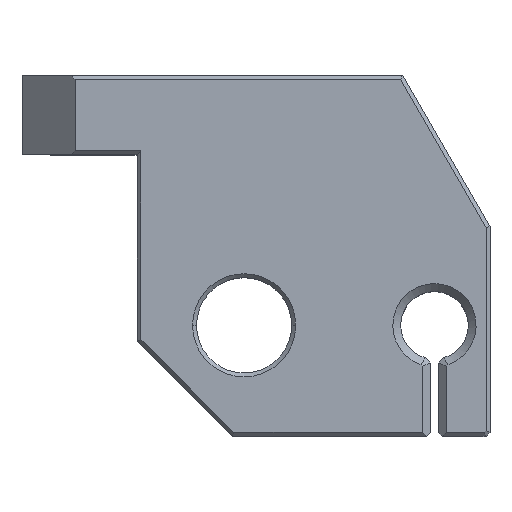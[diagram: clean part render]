
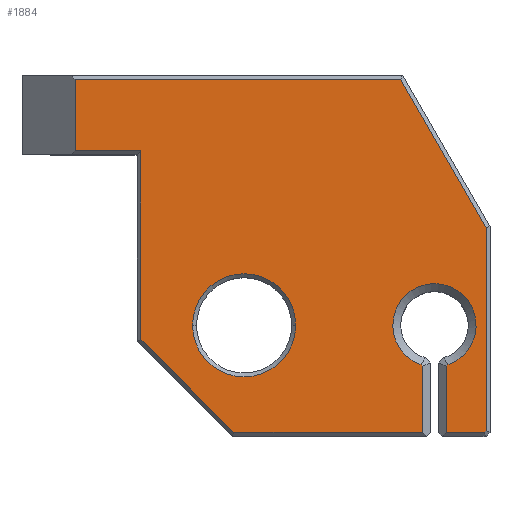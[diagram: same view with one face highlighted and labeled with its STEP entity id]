
A CAD part, top view. The second image highlights one B-rep face of the part: STEP entity #1884.
In plain terms, the highlighted planar face has unit normal (0, 0, 1).
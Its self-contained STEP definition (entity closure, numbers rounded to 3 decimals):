
#294=CARTESIAN_POINT('Vertex',(22.304,-36.469,10.)) ;
#297=CARTESIAN_POINT('Line Origine',(8.586,-22.75,10.)) ;
#301=CARTESIAN_POINT('Vertex',(22.5,-36.664,10.)) ;
#332=CARTESIAN_POINT('Vertex',(25.696,-36.469,10.)) ;
#335=CARTESIAN_POINT('Axis2P3D Location',(24.,-31.5,10.)) ;
#362=CARTESIAN_POINT('Vertex',(25.5,-36.664,10.)) ;
#365=CARTESIAN_POINT('Line Origine',(24.513,-37.651,10.)) ;
#1378=CARTESIAN_POINT('Vertex',(-6.5,-31.5,10.)) ;
#1381=CARTESIAN_POINT('Axis2P3D Location',(0.,-31.5,10.)) ;
#1385=CARTESIAN_POINT('Vertex',(6.5,-31.5,10.)) ;
#1405=CARTESIAN_POINT('Axis2P3D Location',(0.,-31.5,10.)) ;
#1504=CARTESIAN_POINT('Line Origine',(22.5,-22.75,10.)) ;
#1508=CARTESIAN_POINT('Vertex',(22.5,-45.,10.)) ;
#1551=CARTESIAN_POINT('Vertex',(-1.293,-45.,10.)) ;
#1554=CARTESIAN_POINT('Line Origine',(4.843,-45.,10.)) ;
#1574=CARTESIAN_POINT('Vertex',(-13.,-33.293,10.)) ;
#1577=CARTESIAN_POINT('Line Origine',(-11.735,-34.558,10.)) ;
#1597=CARTESIAN_POINT('Vertex',(-13.,-9.5,10.)) ;
#1600=CARTESIAN_POINT('Line Origine',(-13.,-22.75,10.)) ;
#1617=CARTESIAN_POINT('Line Origine',(4.843,-9.5,10.)) ;
#1621=CARTESIAN_POINT('Vertex',(-21.314,-9.5,10.)) ;
#1783=CARTESIAN_POINT('Vertex',(25.5,-45.,10.)) ;
#1786=CARTESIAN_POINT('Line Origine',(25.5,-22.75,10.)) ;
#1804=CARTESIAN_POINT('Line Origine',(-21.314,-5.,10.)) ;
#1808=CARTESIAN_POINT('Vertex',(-21.314,-0.5,10.)) ;
#1825=CARTESIAN_POINT('Axis2P3D Location',(20.,0.,10.)) ;
#1830=CARTESIAN_POINT('Line Origine',(27.896,-45.,10.)) ;
#1834=CARTESIAN_POINT('Vertex',(30.293,-45.,10.)) ;
#1837=CARTESIAN_POINT('Line Origine',(30.396,-44.896,10.)) ;
#1841=CARTESIAN_POINT('Vertex',(30.5,-44.793,10.)) ;
#1844=CARTESIAN_POINT('Line Origine',(30.5,-31.99,10.)) ;
#1848=CARTESIAN_POINT('Vertex',(30.5,-19.187,10.)) ;
#1851=CARTESIAN_POINT('Line Origine',(25.106,-9.843,10.)) ;
#1855=CARTESIAN_POINT('Vertex',(19.711,-0.5,10.)) ;
#1858=CARTESIAN_POINT('Line Origine',(-0.801,-0.5,10.)) ;
#298=DIRECTION('Vector Direction',(0.707,-0.707,0.)) ;
#336=DIRECTION('Axis2P3D Direction',(0.,0.,1.)) ;
#366=DIRECTION('Vector Direction',(-0.707,-0.707,0.)) ;
#1382=DIRECTION('Axis2P3D Direction',(0.,0.,1.)) ;
#1406=DIRECTION('Axis2P3D Direction',(0.,0.,1.)) ;
#1505=DIRECTION('Vector Direction',(0.,1.,0.)) ;
#1555=DIRECTION('Vector Direction',(1.,0.,0.)) ;
#1578=DIRECTION('Vector Direction',(0.707,-0.707,0.)) ;
#1601=DIRECTION('Vector Direction',(0.,-1.,0.)) ;
#1618=DIRECTION('Vector Direction',(-1.,0.,0.)) ;
#1787=DIRECTION('Vector Direction',(0.,1.,0.)) ;
#1805=DIRECTION('Vector Direction',(0.,-1.,0.)) ;
#1826=DIRECTION('Axis2P3D Direction',(0.,0.,1.)) ;
#1827=DIRECTION('Axis2P3D XDirection',(-1.,0.,0.)) ;
#1831=DIRECTION('Vector Direction',(1.,0.,0.)) ;
#1838=DIRECTION('Vector Direction',(0.707,0.707,0.)) ;
#1845=DIRECTION('Vector Direction',(0.,1.,0.)) ;
#1852=DIRECTION('Vector Direction',(-0.5,0.866,0.)) ;
#1859=DIRECTION('Vector Direction',(-1.,0.,0.)) ;
#337=AXIS2_PLACEMENT_3D('Circle Axis2P3D',#335,#336,$) ;
#1383=AXIS2_PLACEMENT_3D('Circle Axis2P3D',#1381,#1382,$) ;
#1407=AXIS2_PLACEMENT_3D('Circle Axis2P3D',#1405,#1406,$) ;
#1828=AXIS2_PLACEMENT_3D('Plane Axis2P3D',#1825,#1826,#1827) ;
#1864=ORIENTED_EDGE('',*,*,#1810,.T.) ;
#1865=ORIENTED_EDGE('',*,*,#1623,.F.) ;
#1866=ORIENTED_EDGE('',*,*,#1604,.F.) ;
#1867=ORIENTED_EDGE('',*,*,#1581,.F.) ;
#1868=ORIENTED_EDGE('',*,*,#1558,.F.) ;
#1869=ORIENTED_EDGE('',*,*,#1510,.F.) ;
#1870=ORIENTED_EDGE('',*,*,#303,.F.) ;
#1871=ORIENTED_EDGE('',*,*,#339,.F.) ;
#1872=ORIENTED_EDGE('',*,*,#369,.F.) ;
#1873=ORIENTED_EDGE('',*,*,#1790,.F.) ;
#1874=ORIENTED_EDGE('',*,*,#1836,.F.) ;
#1875=ORIENTED_EDGE('',*,*,#1843,.F.) ;
#1876=ORIENTED_EDGE('',*,*,#1850,.F.) ;
#1877=ORIENTED_EDGE('',*,*,#1857,.F.) ;
#1878=ORIENTED_EDGE('',*,*,#1862,.F.) ;
#1881=ORIENTED_EDGE('',*,*,#1409,.T.) ;
#1882=ORIENTED_EDGE('',*,*,#1387,.T.) ;
#1883=FACE_BOUND('',#1880,.T.) ;
#299=VECTOR('Line Direction',#298,1.) ;
#367=VECTOR('Line Direction',#366,1.) ;
#1506=VECTOR('Line Direction',#1505,1.) ;
#1556=VECTOR('Line Direction',#1555,1.) ;
#1579=VECTOR('Line Direction',#1578,1.) ;
#1602=VECTOR('Line Direction',#1601,1.) ;
#1619=VECTOR('Line Direction',#1618,1.) ;
#1788=VECTOR('Line Direction',#1787,1.) ;
#1806=VECTOR('Line Direction',#1805,1.) ;
#1832=VECTOR('Line Direction',#1831,1.) ;
#1839=VECTOR('Line Direction',#1838,1.) ;
#1846=VECTOR('Line Direction',#1845,1.) ;
#1853=VECTOR('Line Direction',#1852,1.) ;
#1860=VECTOR('Line Direction',#1859,1.) ;
#1884=ADVANCED_FACE('PartBody',(#1879,#1883),#1829,.T.) ;
#338=CIRCLE('generated circle',#337,5.25) ;
#1384=CIRCLE('generated circle',#1383,6.5) ;
#1408=CIRCLE('generated circle',#1407,6.5) ;
#303=EDGE_CURVE('',#295,#302,#300,.T.) ;
#339=EDGE_CURVE('',#333,#295,#338,.T.) ;
#369=EDGE_CURVE('',#363,#333,#368,.F.) ;
#1387=EDGE_CURVE('',#1386,#1379,#1384,.F.) ;
#1409=EDGE_CURVE('',#1379,#1386,#1408,.F.) ;
#1510=EDGE_CURVE('',#302,#1509,#1507,.F.) ;
#1558=EDGE_CURVE('',#1509,#1552,#1557,.F.) ;
#1581=EDGE_CURVE('',#1552,#1575,#1580,.F.) ;
#1604=EDGE_CURVE('',#1575,#1598,#1603,.F.) ;
#1623=EDGE_CURVE('',#1598,#1622,#1620,.T.) ;
#1790=EDGE_CURVE('',#1784,#363,#1789,.T.) ;
#1810=EDGE_CURVE('',#1809,#1622,#1807,.T.) ;
#1836=EDGE_CURVE('',#1835,#1784,#1833,.F.) ;
#1843=EDGE_CURVE('',#1842,#1835,#1840,.F.) ;
#1850=EDGE_CURVE('',#1849,#1842,#1847,.F.) ;
#1857=EDGE_CURVE('',#1856,#1849,#1854,.F.) ;
#1862=EDGE_CURVE('',#1809,#1856,#1861,.F.) ;
#1863=EDGE_LOOP('',(#1864,#1865,#1866,#1867,#1868,#1869,#1870,#1871,#1872,#1873,#1874,#1875,#1876,#1877,#1878)) ;
#1880=EDGE_LOOP('',(#1881,#1882)) ;
#1879=FACE_OUTER_BOUND('',#1863,.T.) ;
#300=LINE('Line',#297,#299) ;
#368=LINE('Line',#365,#367) ;
#1507=LINE('Line',#1504,#1506) ;
#1557=LINE('Line',#1554,#1556) ;
#1580=LINE('Line',#1577,#1579) ;
#1603=LINE('Line',#1600,#1602) ;
#1620=LINE('Line',#1617,#1619) ;
#1789=LINE('Line',#1786,#1788) ;
#1807=LINE('Line',#1804,#1806) ;
#1833=LINE('Line',#1830,#1832) ;
#1840=LINE('Line',#1837,#1839) ;
#1847=LINE('Line',#1844,#1846) ;
#1854=LINE('Line',#1851,#1853) ;
#1861=LINE('Line',#1858,#1860) ;
#1829=PLANE('Plane',#1828) ;
#295=VERTEX_POINT('',#294) ;
#302=VERTEX_POINT('',#301) ;
#333=VERTEX_POINT('',#332) ;
#363=VERTEX_POINT('',#362) ;
#1379=VERTEX_POINT('',#1378) ;
#1386=VERTEX_POINT('',#1385) ;
#1509=VERTEX_POINT('',#1508) ;
#1552=VERTEX_POINT('',#1551) ;
#1575=VERTEX_POINT('',#1574) ;
#1598=VERTEX_POINT('',#1597) ;
#1622=VERTEX_POINT('',#1621) ;
#1784=VERTEX_POINT('',#1783) ;
#1809=VERTEX_POINT('',#1808) ;
#1835=VERTEX_POINT('',#1834) ;
#1842=VERTEX_POINT('',#1841) ;
#1849=VERTEX_POINT('',#1848) ;
#1856=VERTEX_POINT('',#1855) ;
